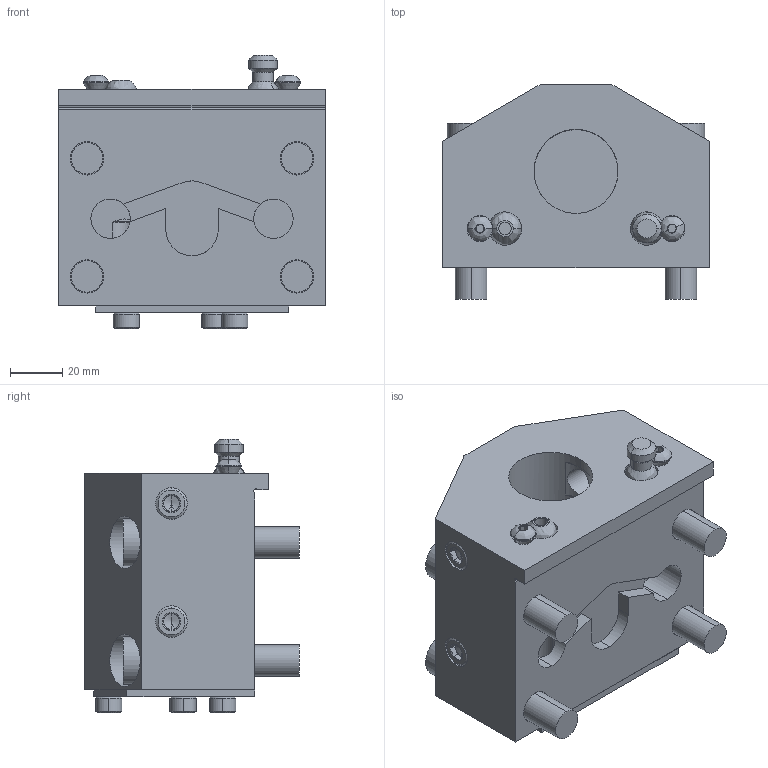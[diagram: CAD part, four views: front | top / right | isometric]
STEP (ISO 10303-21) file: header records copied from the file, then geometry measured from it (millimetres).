
FILE_DESCRIPTION (( 'STEP AP203' ), '1' );
FILE_NAME ('04-0751, BOT20MID-32.STEP', '2022-07-18T22:10:47', ( '' ), ( '' ), 'SwSTEP 2.0', 'SolidWorks 2021', '' );
FILE_SCHEMA (( 'CONFIG_CONTROL_DESIGN' ));
Length unit declared in the file: inch
Products named in the file (1): 04-0751, BOT20MID-32
Bounding box: 101.6 x 81.67 x 104.08 mm (x, y, z)
Surface area: 84955.3 mm2 (no closed solid volume)
Topology: 0 solids, 26 shells, 393 faces, 1058 edges, 689 vertices
Faces by surface type: plane 187, cone 98, cylinder 86, bspline 22
Entity records: 19980 total; most frequent: CARTESIAN_POINT 10635, ORIENTED_EDGE 1934, DIRECTION 1750, EDGE_CURVE 1042, VERTEX_POINT 689, AXIS2_PLACEMENT_3D 644, VECTOR 462, LINE 462
